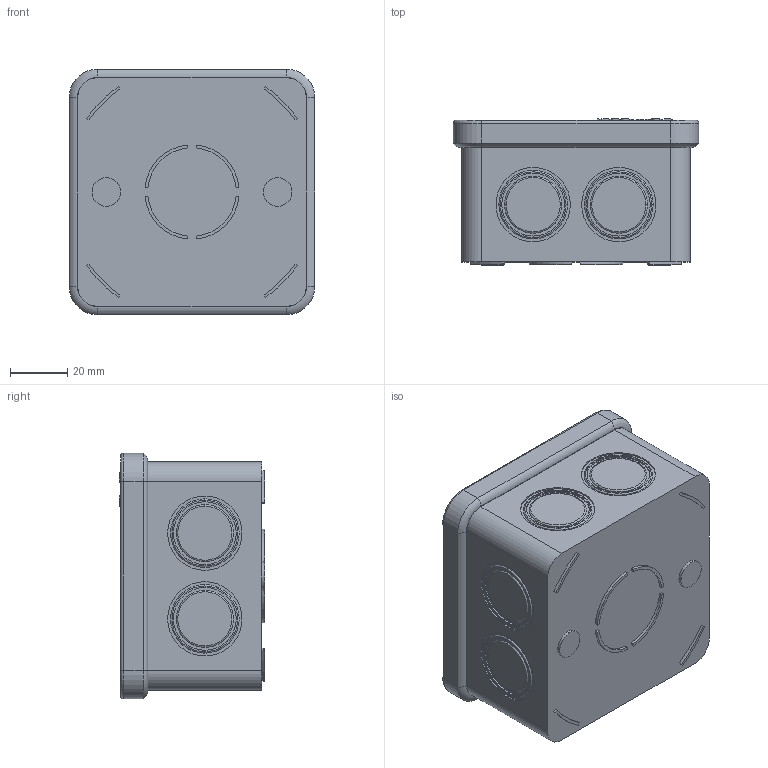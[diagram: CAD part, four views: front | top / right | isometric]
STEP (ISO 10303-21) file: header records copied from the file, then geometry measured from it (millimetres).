
FILE_DESCRIPTION (( 'STEP AP203' ), '1' );
FILE_NAME ('Electrical Box Assembly Small.STEP', '2011-07-19T21:20:10', ( '' ), ( '' ), 'SwSTEP 2.0', 'SolidWorks 2011', '' );
FILE_SCHEMA (( 'CONFIG_CONTROL_DESIGN' ));
Length unit declared in the file: millimetre
Products named in the file (3): Electrical Box Assembly Small; Electrical Box Top Small; Electrical Box Bottom Small
Assembly tree (2 placements, depth 2):
  Electrical Box Assembly Small
    Electrical Box Top Small
    Electrical Box Bottom Small
Bounding box: 86 x 51 x 86 mm (x, y, z)
Volume: 65819.1 mm3; surface area: 64395.2 mm2
Topology: 2 solids, 2 shells, 793 faces, 2089 edges, 1390 vertices
Faces by surface type: plane 609, cylinder 148, torus 36
Entity records: 24636 total; most frequent: CARTESIAN_POINT 4277, ORIENTED_EDGE 4178, DIRECTION 4077, EDGE_CURVE 2089, VECTOR 1697, LINE 1697, VERTEX_POINT 1390, AXIS2_PLACEMENT_3D 1190
